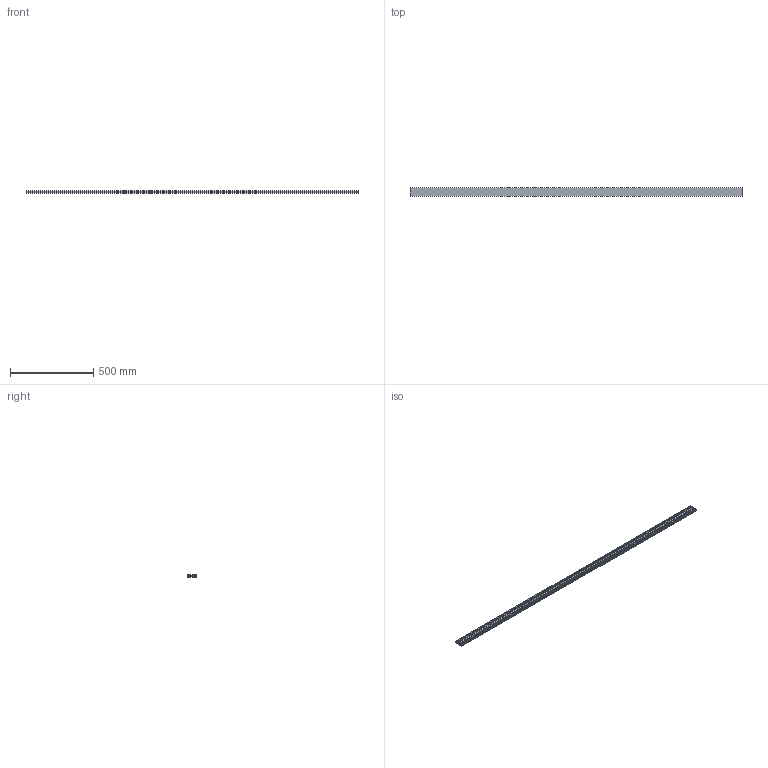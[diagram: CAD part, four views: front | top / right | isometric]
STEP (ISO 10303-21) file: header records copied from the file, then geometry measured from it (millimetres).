
FILE_DESCRIPTION (( 'STEP AP203' ), '1' );
FILE_NAME ('17.M07H20000 M7H.STEP', '2025-08-02T02:46:47', ( '' ), ( '' ), 'SwSTEP 2.0', 'SolidWorks 2020', '' );
FILE_SCHEMA (( 'CONFIG_CONTROL_DESIGN' ));
Length unit declared in the file: millimetre
Products named in the file (4): 17.M07H20000 M7H; KC-0006-0041.stp; KC-0006-0002.stp; KC-0006-0003.stp
Assembly tree (5 placements, depth 2):
  17.M07H20000 M7H
    KC-0006-0041.stp
    KC-0006-0002.stp  x2
    KC-0006-0003.stp  x2
Bounding box: 2000 x 50 x 12.5 mm (x, y, z)
Volume: 529352.9 mm3; surface area: 766893.5 mm2
Topology: 13 solids, 13 shells, 197 faces, 516 edges, 344 vertices
Faces by surface type: plane 159, cylinder 38
Entity records: 4900 total; most frequent: CARTESIAN_POINT 789, ORIENTED_EDGE 768, DIRECTION 750, EDGE_CURVE 384, VECTOR 316, LINE 316, VERTEX_POINT 256, AXIS2_PLACEMENT_3D 217
